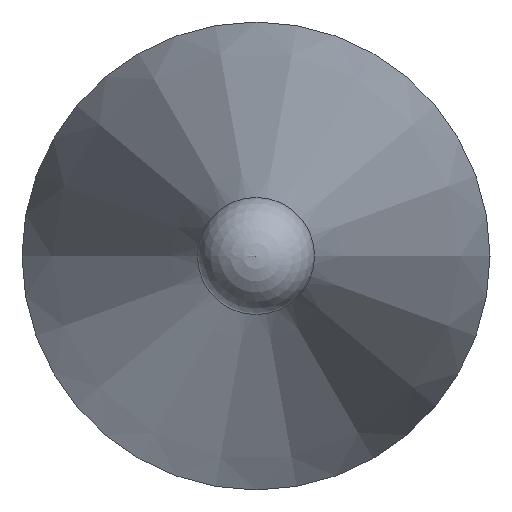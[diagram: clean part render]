
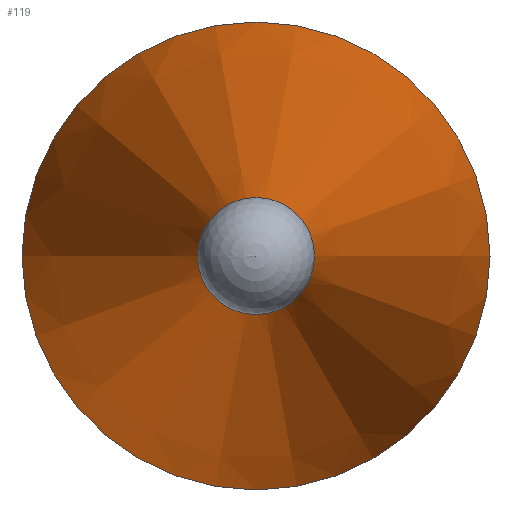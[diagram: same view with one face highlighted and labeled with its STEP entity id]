
A CAD part, left-side view. The second image highlights one B-rep face of the part: STEP entity #119.
In plain terms, the highlighted conical face has half-angle 11 degrees and reference radius 3 mm.
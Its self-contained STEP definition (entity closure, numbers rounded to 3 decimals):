
#93=CONICAL_SURFACE('',#191,3.,11.);
#106=FACE_BOUND('',#137,.T.);
#107=FACE_BOUND('',#138,.T.);
#119=ADVANCED_FACE('',(#106,#107),#93,.T.);
#137=EDGE_LOOP('',(#151));
#138=EDGE_LOOP('',(#152));
#151=ORIENTED_EDGE('',*,*,#168,.F.);
#152=ORIENTED_EDGE('',*,*,#169,.T.);
#161=VERTEX_POINT('',#244);
#162=VERTEX_POINT('',#247);
#168=EDGE_CURVE('',#161,#161,#175,.T.);
#169=EDGE_CURVE('',#162,#162,#176,.T.);
#175=CIRCLE('',#188,0.71);
#176=CIRCLE('',#190,3.);
#188=AXIS2_PLACEMENT_3D('',#243,#215,#216);
#190=AXIS2_PLACEMENT_3D('',#246,#219,#220);
#191=AXIS2_PLACEMENT_3D('',#248,#221,#222);
#215=DIRECTION('',(-1.,0.,0.));
#216=DIRECTION('',(0.,-1.,0.));
#219=DIRECTION('',(-1.,0.,0.));
#220=DIRECTION('',(0.,-1.,0.));
#221=DIRECTION('',(1.,0.,0.));
#222=DIRECTION('',(0.,1.,0.));
#243=CARTESIAN_POINT('',(7863.893,6110.222,0.));
#244=CARTESIAN_POINT('',(7863.893,6109.512,0.));
#246=CARTESIAN_POINT('',(7875.674,6110.222,0.));
#247=CARTESIAN_POINT('',(7875.674,6107.222,0.));
#248=CARTESIAN_POINT('',(7875.674,6110.222,0.));
